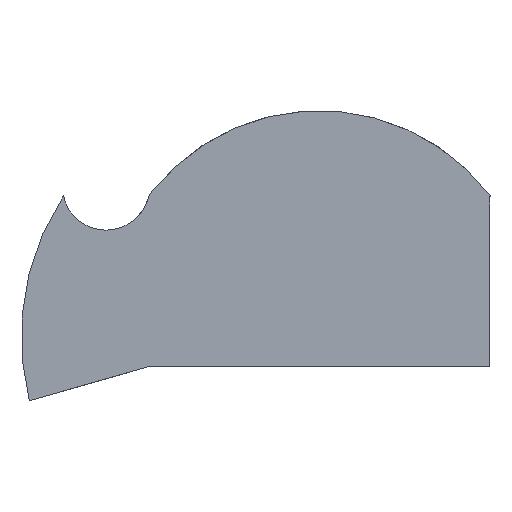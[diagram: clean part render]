
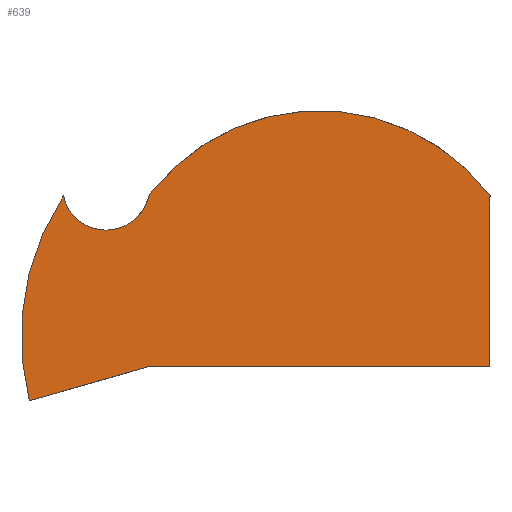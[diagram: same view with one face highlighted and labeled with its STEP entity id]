
A CAD part, top view. The second image highlights one B-rep face of the part: STEP entity #639.
In plain terms, the highlighted planar face has unit normal (0, 0, 1).
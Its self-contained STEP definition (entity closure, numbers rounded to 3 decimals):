
#21 = EDGE_CURVE('',#22,#24,#26,.T.);
#22 = VERTEX_POINT('',#23);
#23 = CARTESIAN_POINT('',(20.,-9.463,1.82));
#24 = VERTEX_POINT('',#25);
#25 = CARTESIAN_POINT('',(-9.117,-9.463,1.82
    ));
#26 = SURFACE_CURVE('',#27,(#31,#43),.PCURVE_S1.);
#27 = LINE('',#28,#29);
#28 = CARTESIAN_POINT('',(20.,-9.463,1.82));
#29 = VECTOR('',#30,1.);
#30 = DIRECTION('',(-1.,0.,0.));
#31 = PCURVE('',#32,#37);
#32 = PLANE('',#33);
#33 = AXIS2_PLACEMENT_3D('',#34,#35,#36);
#34 = CARTESIAN_POINT('',(10.294,-9.463,-0.607)
  );
#35 = DIRECTION('',(0.,1.,0.));
#36 = DIRECTION('',(0.,0.,-1.));
#37 = DEFINITIONAL_REPRESENTATION('',(#38),#42);
#38 = LINE('',#39,#40);
#39 = CARTESIAN_POINT('',(-2.426,-9.706));
#40 = VECTOR('',#41,1.);
#41 = DIRECTION('',(0.,1.));
#42 = ( GEOMETRIC_REPRESENTATION_CONTEXT(2) 
PARAMETRIC_REPRESENTATION_CONTEXT() REPRESENTATION_CONTEXT('2D SPACE',''
  ) );
#43 = PCURVE('',#44,#49);
#44 = PLANE('',#45);
#45 = AXIS2_PLACEMENT_3D('',#46,#47,#48);
#46 = CARTESIAN_POINT('',(-6.366,4.408,1.82)
  );
#47 = DIRECTION('',(0.,0.,1.));
#48 = DIRECTION('',(0.,1.,0.));
#49 = DEFINITIONAL_REPRESENTATION('',(#50),#54);
#50 = LINE('',#51,#52);
#51 = CARTESIAN_POINT('',(-13.871,-26.366));
#52 = VECTOR('',#53,1.);
#53 = DIRECTION('',(0.,1.));
#54 = ( GEOMETRIC_REPRESENTATION_CONTEXT(2) 
PARAMETRIC_REPRESENTATION_CONTEXT() REPRESENTATION_CONTEXT('2D SPACE',''
  ) );
#72 = PLANE('',#73);
#73 = AXIS2_PLACEMENT_3D('',#74,#75,#76);
#74 = CARTESIAN_POINT('',(-15.911,-11.404,0.607
    ));
#75 = DIRECTION('',(0.275,-0.962,0.));
#76 = DIRECTION('',(0.,0.,1.));
#126 = PLANE('',#127);
#127 = AXIS2_PLACEMENT_3D('',#128,#129,#130);
#128 = CARTESIAN_POINT('',(20.,-2.184,0.));
#129 = DIRECTION('',(1.,0.,0.));
#130 = DIRECTION('',(0.,0.,1.));
#166 = VERTEX_POINT('',#167);
#167 = CARTESIAN_POINT('',(20.,5.095,1.82
    ));
#181 = CYLINDRICAL_SURFACE('',#182,18.198);
#182 = AXIS2_PLACEMENT_3D('',#183,#184,#185);
#183 = CARTESIAN_POINT('',(5.441,-5.823,
    -0.012));
#184 = DIRECTION('',(0.,0.,1.));
#185 = DIRECTION('',(0.,-1.,0.));
#193 = EDGE_CURVE('',#166,#22,#194,.T.);
#194 = SURFACE_CURVE('',#195,(#199,#206),.PCURVE_S1.);
#195 = LINE('',#196,#197);
#196 = CARTESIAN_POINT('',(20.,5.095,1.82
    ));
#197 = VECTOR('',#198,1.);
#198 = DIRECTION('',(0.,-1.,0.));
#199 = PCURVE('',#126,#200);
#200 = DEFINITIONAL_REPRESENTATION('',(#201),#205);
#201 = LINE('',#202,#203);
#202 = CARTESIAN_POINT('',(1.82,-7.279));
#203 = VECTOR('',#204,1.);
#204 = DIRECTION('',(0.,1.));
#205 = ( GEOMETRIC_REPRESENTATION_CONTEXT(2) 
PARAMETRIC_REPRESENTATION_CONTEXT() REPRESENTATION_CONTEXT('2D SPACE',''
  ) );
#206 = PCURVE('',#44,#207);
#207 = DEFINITIONAL_REPRESENTATION('',(#208),#212);
#208 = LINE('',#209,#210);
#209 = CARTESIAN_POINT('',(0.687,-26.366));
#210 = VECTOR('',#211,1.);
#211 = DIRECTION('',(-1.,0.));
#212 = ( GEOMETRIC_REPRESENTATION_CONTEXT(2) 
PARAMETRIC_REPRESENTATION_CONTEXT() REPRESENTATION_CONTEXT('2D SPACE',''
  ) );
#217 = EDGE_CURVE('',#218,#220,#222,.T.);
#218 = VERTEX_POINT('',#219);
#219 = CARTESIAN_POINT('',(-9.12,5.083,1.82
    ));
#220 = VERTEX_POINT('',#221);
#221 = CARTESIAN_POINT('',(-8.836,5.46,1.82
    ));
#222 = SURFACE_CURVE('',#223,(#227,#238),.PCURVE_S1.);
#223 = LINE('',#224,#225);
#224 = CARTESIAN_POINT('',(-9.12,5.083,1.82
    ));
#225 = VECTOR('',#226,1.);
#226 = DIRECTION('',(0.601,0.799,0.));
#227 = PCURVE('',#228,#233);
#228 = PLANE('',#229);
#229 = AXIS2_PLACEMENT_3D('',#230,#231,#232);
#230 = CARTESIAN_POINT('',(-9.055,5.151,0.));
#231 = DIRECTION('',(0.813,-0.582,0.005));
#232 = DIRECTION('',(0.,0.009,1.));
#233 = DEFINITIONAL_REPRESENTATION('',(#234),#237);
#234 = B_SPLINE_CURVE_WITH_KNOTS('',1,(#235,#236),.UNSPECIFIED.,.F.,.F.,
  (2,2),(0.,0.472),.PIECEWISE_BEZIER_KNOTS.);
#235 = CARTESIAN_POINT('',(1.819,0.107));
#236 = CARTESIAN_POINT('',(1.823,-0.365));
#237 = ( GEOMETRIC_REPRESENTATION_CONTEXT(2) 
PARAMETRIC_REPRESENTATION_CONTEXT() REPRESENTATION_CONTEXT('2D SPACE',''
  ) );
#238 = PCURVE('',#44,#239);
#239 = DEFINITIONAL_REPRESENTATION('',(#240),#244);
#240 = LINE('',#241,#242);
#241 = CARTESIAN_POINT('',(0.674,2.754));
#242 = VECTOR('',#243,1.);
#243 = DIRECTION('',(0.799,-0.601));
#244 = ( GEOMETRIC_REPRESENTATION_CONTEXT(2) 
PARAMETRIC_REPRESENTATION_CONTEXT() REPRESENTATION_CONTEXT('2D SPACE',''
  ) );
#337 = CYLINDRICAL_SURFACE('',#338,3.731);
#338 = AXIS2_PLACEMENT_3D('',#339,#340,#341);
#339 = CARTESIAN_POINT('',(-12.757,5.914,
    0.013));
#340 = DIRECTION('',(0.,0.,1.));
#341 = DIRECTION('',(0.,1.,-0.));
#375 = EDGE_CURVE('',#220,#166,#376,.T.);
#376 = SURFACE_CURVE('',#377,(#382,#389),.PCURVE_S1.);
#377 = CIRCLE('',#378,18.198);
#378 = AXIS2_PLACEMENT_3D('',#379,#380,#381);
#379 = CARTESIAN_POINT('',(5.441,-5.823,1.82
    ));
#380 = DIRECTION('',(-0.,0.,-1.));
#381 = DIRECTION('',(-0.785,0.62,0.));
#382 = PCURVE('',#181,#383);
#383 = DEFINITIONAL_REPRESENTATION('',(#384),#388);
#384 = LINE('',#385,#386);
#385 = CARTESIAN_POINT('',(4.044,1.832));
#386 = VECTOR('',#387,1.);
#387 = DIRECTION('',(-1.,0.));
#388 = ( GEOMETRIC_REPRESENTATION_CONTEXT(2) 
PARAMETRIC_REPRESENTATION_CONTEXT() REPRESENTATION_CONTEXT('2D SPACE',''
  ) );
#389 = PCURVE('',#44,#390);
#390 = DEFINITIONAL_REPRESENTATION('',(#391),#399);
#391 = ( BOUNDED_CURVE() B_SPLINE_CURVE(2,(#392,#393,#394,#395,#396,#397
,#398),.UNSPECIFIED.,.T.,.F.) B_SPLINE_CURVE_WITH_KNOTS((1,2,2,2,2,1),(
    -2.094,0.,2.094,4.189,6.283,
8.378),.UNSPECIFIED.) CURVE() GEOMETRIC_REPRESENTATION_ITEM() 
RATIONAL_B_SPLINE_CURVE((1.,0.5,1.,0.5,1.,0.5,1.)) REPRESENTATION_ITEM(
  '') );
#392 = CARTESIAN_POINT('',(1.052,2.47));
#393 = CARTESIAN_POINT('',(25.782,-17.073));
#394 = CARTESIAN_POINT('',(-3.508,-28.718));
#395 = CARTESIAN_POINT('',(-32.799,-40.364));
#396 = CARTESIAN_POINT('',(-28.239,-9.175));
#397 = CARTESIAN_POINT('',(-23.679,22.014));
#398 = CARTESIAN_POINT('',(1.052,2.47));
#399 = ( GEOMETRIC_REPRESENTATION_CONTEXT(2) 
PARAMETRIC_REPRESENTATION_CONTEXT() REPRESENTATION_CONTEXT('2D SPACE',''
  ) );
#427 = EDGE_CURVE('',#428,#218,#430,.T.);
#428 = VERTEX_POINT('',#429);
#429 = CARTESIAN_POINT('',(-16.396,5.095,1.82
    ));
#430 = SURFACE_CURVE('',#431,(#436,#443),.PCURVE_S1.);
#431 = CIRCLE('',#432,3.731);
#432 = AXIS2_PLACEMENT_3D('',#433,#434,#435);
#433 = CARTESIAN_POINT('',(-12.757,5.914,1.82
    ));
#434 = DIRECTION('',(0.,0.,1.));
#435 = DIRECTION('',(-0.976,-0.22,0.));
#436 = PCURVE('',#337,#437);
#437 = DEFINITIONAL_REPRESENTATION('',(#438),#442);
#438 = LINE('',#439,#440);
#439 = CARTESIAN_POINT('',(1.792,1.807));
#440 = VECTOR('',#441,1.);
#441 = DIRECTION('',(1.,0.));
#442 = ( GEOMETRIC_REPRESENTATION_CONTEXT(2) 
PARAMETRIC_REPRESENTATION_CONTEXT() REPRESENTATION_CONTEXT('2D SPACE',''
  ) );
#443 = PCURVE('',#44,#444);
#444 = DEFINITIONAL_REPRESENTATION('',(#445),#449);
#445 = CIRCLE('',#446,3.731);
#446 = AXIS2_PLACEMENT_2D('',#447,#448);
#447 = CARTESIAN_POINT('',(1.506,6.39));
#448 = DIRECTION('',(-0.22,0.976));
#449 = ( GEOMETRIC_REPRESENTATION_CONTEXT(2) 
PARAMETRIC_REPRESENTATION_CONTEXT() REPRESENTATION_CONTEXT('2D SPACE',''
  ) );
#467 = CYLINDRICAL_SURFACE('',#468,21.838);
#468 = AXIS2_PLACEMENT_3D('',#469,#470,#471);
#469 = CARTESIAN_POINT('',(1.838,-6.921,0.));
#470 = DIRECTION('',(0.,0.,1.));
#471 = DIRECTION('',(0.986,-0.164,0.));
#512 = VERTEX_POINT('',#513);
#513 = CARTESIAN_POINT('',(-19.308,-12.375,
    1.82));
#534 = EDGE_CURVE('',#512,#428,#535,.T.);
#535 = SURFACE_CURVE('',#536,(#541,#548),.PCURVE_S1.);
#536 = CIRCLE('',#537,21.838);
#537 = AXIS2_PLACEMENT_3D('',#538,#539,#540);
#538 = CARTESIAN_POINT('',(1.838,-6.921,1.82
    ));
#539 = DIRECTION('',(-0.,0.,-1.));
#540 = DIRECTION('',(-0.968,-0.25,0.));
#541 = PCURVE('',#467,#542);
#542 = DEFINITIONAL_REPRESENTATION('',(#543),#547);
#543 = LINE('',#544,#545);
#544 = CARTESIAN_POINT('',(3.559,1.82));
#545 = VECTOR('',#546,1.);
#546 = DIRECTION('',(-1.,0.));
#547 = ( GEOMETRIC_REPRESENTATION_CONTEXT(2) 
PARAMETRIC_REPRESENTATION_CONTEXT() REPRESENTATION_CONTEXT('2D SPACE',''
  ) );
#548 = PCURVE('',#44,#549);
#549 = DEFINITIONAL_REPRESENTATION('',(#550),#558);
#550 = ( BOUNDED_CURVE() B_SPLINE_CURVE(2,(#551,#552,#553,#554,#555,#556
,#557),.UNSPECIFIED.,.T.,.F.) B_SPLINE_CURVE_WITH_KNOTS((1,2,2,2,2,1),(
    -2.094,0.,2.094,4.189,6.283,
8.378),.UNSPECIFIED.) CURVE() GEOMETRIC_REPRESENTATION_ITEM() 
RATIONAL_B_SPLINE_CURVE((1.,0.5,1.,0.5,1.,0.5,1.)) REPRESENTATION_ITEM(
  '') );
#551 = CARTESIAN_POINT('',(-16.783,12.942));
#552 = CARTESIAN_POINT('',(19.843,22.387));
#553 = CARTESIAN_POINT('',(9.71,-14.054));
#554 = CARTESIAN_POINT('',(-0.423,-50.496));
#555 = CARTESIAN_POINT('',(-26.916,-23.5));
#556 = CARTESIAN_POINT('',(-53.409,3.496));
#557 = CARTESIAN_POINT('',(-16.783,12.942));
#558 = ( GEOMETRIC_REPRESENTATION_CONTEXT(2) 
PARAMETRIC_REPRESENTATION_CONTEXT() REPRESENTATION_CONTEXT('2D SPACE',''
  ) );
#586 = EDGE_CURVE('',#24,#512,#587,.T.);
#587 = SURFACE_CURVE('',#588,(#592,#599),.PCURVE_S1.);
#588 = LINE('',#589,#590);
#589 = CARTESIAN_POINT('',(-9.117,-9.463,
    1.82));
#590 = VECTOR('',#591,1.);
#591 = DIRECTION('',(-0.962,-0.275,0.));
#592 = PCURVE('',#72,#593);
#593 = DEFINITIONAL_REPRESENTATION('',(#594),#598);
#594 = LINE('',#595,#596);
#595 = CARTESIAN_POINT('',(1.213,-7.066));
#596 = VECTOR('',#597,1.);
#597 = DIRECTION('',(0.,1.));
#598 = ( GEOMETRIC_REPRESENTATION_CONTEXT(2) 
PARAMETRIC_REPRESENTATION_CONTEXT() REPRESENTATION_CONTEXT('2D SPACE',''
  ) );
#599 = PCURVE('',#44,#600);
#600 = DEFINITIONAL_REPRESENTATION('',(#601),#605);
#601 = LINE('',#602,#603);
#602 = CARTESIAN_POINT('',(-13.871,2.751));
#603 = VECTOR('',#604,1.);
#604 = DIRECTION('',(-0.275,0.962));
#605 = ( GEOMETRIC_REPRESENTATION_CONTEXT(2) 
PARAMETRIC_REPRESENTATION_CONTEXT() REPRESENTATION_CONTEXT('2D SPACE',''
  ) );
#639 = ADVANCED_FACE('',(#640),#44,.T.);
#640 = FACE_BOUND('',#641,.T.);
#641 = EDGE_LOOP('',(#642,#643,#644,#645,#646,#647,#648));
#642 = ORIENTED_EDGE('',*,*,#586,.F.);
#643 = ORIENTED_EDGE('',*,*,#21,.F.);
#644 = ORIENTED_EDGE('',*,*,#193,.F.);
#645 = ORIENTED_EDGE('',*,*,#375,.F.);
#646 = ORIENTED_EDGE('',*,*,#217,.F.);
#647 = ORIENTED_EDGE('',*,*,#427,.F.);
#648 = ORIENTED_EDGE('',*,*,#534,.F.);
